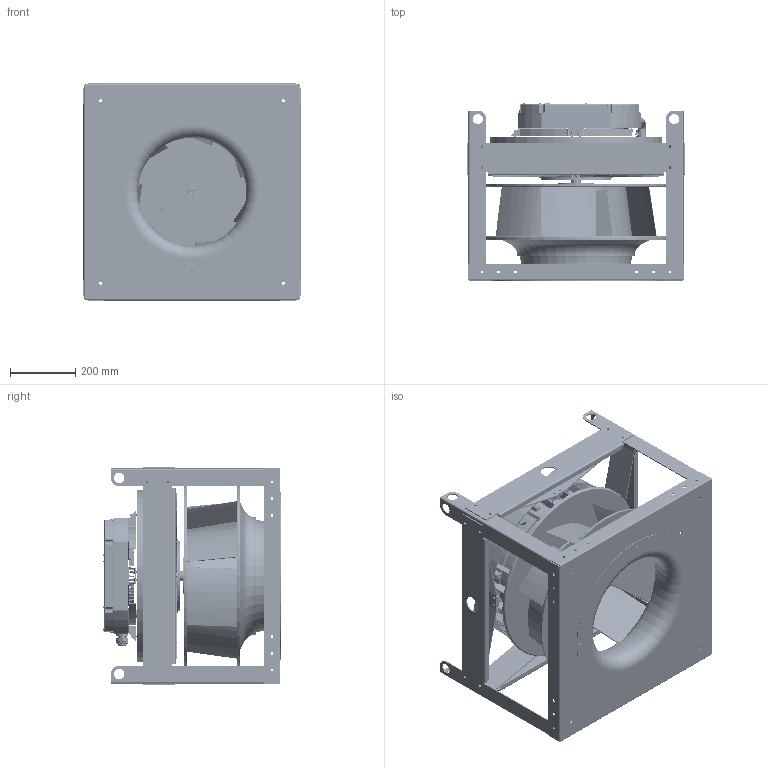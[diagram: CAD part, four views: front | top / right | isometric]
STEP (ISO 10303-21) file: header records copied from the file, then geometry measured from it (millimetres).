
FILE_DESCRIPTION (( 'STEP AP214' ), '1' );
FILE_NAME ('655781.STEP', '2026-06-10T20:41:45', ( '' ), ( '' ), 'SwSTEP 2.0', 'SolidWorks 2023', '' );
FILE_SCHEMA (( 'AUTOMOTIVE_DESIGN' ));
Products named in the file (8): 925959CS_925959CS; 651547_651547; SXPI STRAP_651579; 651583_651583; 768049CS_768049CS; 651564_651564; 655781; 768037CS_768037CS
Assembly tree (16 placements, depth 2):
  655781
    651547_651547
    651564_651564  x4
    651583_651583  x4
    SXPI STRAP_651579  x4
    925959CS_925959CS
    768037CS_768037CS
    768049CS_768049CS
Bounding box: 663.7 x 544.18 x 663.7 mm (x, y, z)
Volume: 6531071.5 mm3; surface area: 6093743.3 mm2
Topology: 26 solids, 318 shells, 3942 faces, 12598 edges, 8666 vertices
Faces by surface type: plane 1137, cylinder 1089, bspline 1013, cone 329, torus 306, sphere 68
Full cylindrical faces by diameter (mm): 2.9 x2, 3.962 x4, 5.105 x16, 6 x37, 7 x5, 7.137 x16, 7.544 x1, 7.937 x3, 7.938 x1, 8.5 x1, 8.738 x87, 9 x4, 9.73 x8, 10 x8, 10.1 x1, 11.8 x16, 12.5 x1, 12.6 x1, 13 x15, 14 x1, 17.462 x2, 17.463 x2, 23.5 x1, 23.92 x1, 24.282 x1, 25.5 x3, 26.2 x1, 26.35 x1, 26.416 x2, 26.5 x1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
Entity records: 269619 total; most frequent: CARTESIAN_POINT 180145, ORIENTED_EDGE 17902, DIRECTION 15907, EDGE_CURVE 11339, VERTEX_POINT 8071, AXIS2_PLACEMENT_3D 6387, EDGE_LOOP 4461, B_SPLINE_CURVE_WITH_KNOTS 3905
